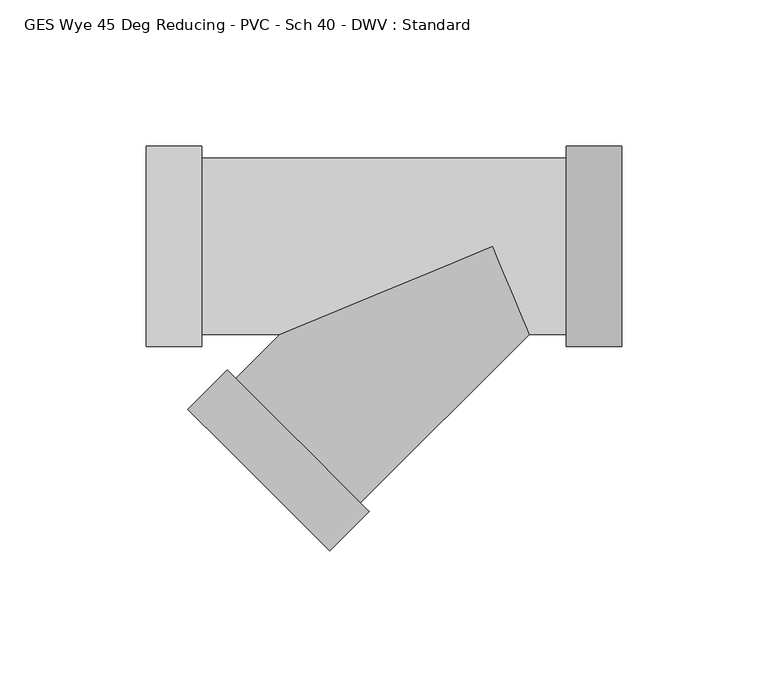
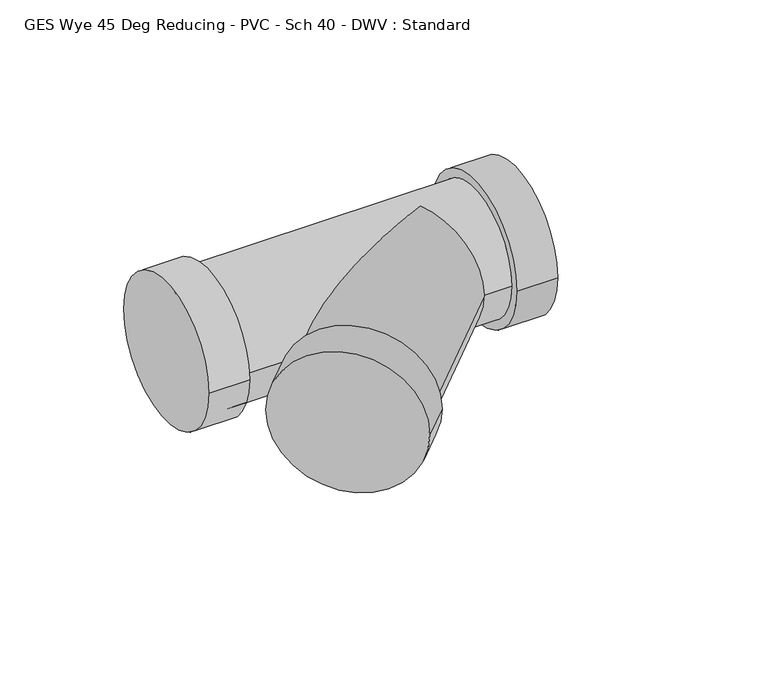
"""IFC4 building model written with IfcOpenShell, lengths in millimetres: pipe fitting geometry, GES Wye 45 Deg Reducing - PVC - Sch 40 - DWV : Standard."""

from ifc_helpers import new_model, si_unit, frame, origin, place, context, project, spatial, circle_curve, ellipse_curve, source, transform, mapped, element, save
from ifc_brep_helpers import plane_surface, cylinder_surface, advanced_brep


def ges_wye_45_deg_reducing_pvc_sch_40_dwv_standard_7655e975(model_context):
    return source(origin(), model_context, "Body", "AdvancedBrep", [
        advanced_brep(
        [(-99.5759375, 34.3154, 0.0), (-99.5759375, -34.3154, 0.0), (-99.5759375, 30.1625, 0.0), (-99.5759375, -30.1625, 0.0), (-118.6259375, 34.3154, 0.0), (-118.6259375, -34.3154, 0.0), (25.1182188, -34.3154, 0.0), (25.1182188, 34.3154, 0.0), (25.1182188, -30.1625, 0.0), (25.1182188, 30.1625, 0.0), (44.1682188, -34.3154, 0.0), (44.1682188, 34.3154, 0.0), (12.4920891, -30.1625, 0.0), (0.0, 0.0, -30.1625), (-72.8282036, -30.1625, 0.0), (0.0, 0.0, 30.1625), (-87.9405223, -45.2720349, 0.0), (-45.2882351, -87.9321805, 0.0), (-90.8767955, -42.3352206, 0.0), (-42.3519618, -90.8689947, 0.0), (-104.3484204, -55.804364, 0.0), (-55.8235867, -104.338138, 0.0)],
        [
            (0, 1, circle_curve(frame((-99.5759375, 0.0, 0.0), z_axis=(1.0, 0.0, 0.0), x_axis=(0.0, -1.0, 0.0)), 34.3154)),
            (1, 0, circle_curve(frame((-99.5759375, 0.0, 0.0), z_axis=(1.0, 0.0, 0.0), x_axis=(0.0, -1.0, 0.0)), 34.3154)),
            (2, 3, circle_curve(frame((-99.5759375, 0.0, 0.0), z_axis=(-1.0, 0.0, 0.0), x_axis=(0.0, 0.0, -1.0)), 30.1625)),
            (3, 2, circle_curve(frame((-99.5759375, 0.0, 0.0), z_axis=(-1.0, 0.0, 0.0), x_axis=(0.0, 0.0, 1.0)), 30.1625)),
            (4, 5, circle_curve(frame((-118.6259375, 0.0, 0.0), z_axis=(-1.0, 0.0, 0.0), x_axis=(0.0, -1.0, 0.0)), 34.3154)),
            (5, 4, circle_curve(frame((-118.6259375, 0.0, 0.0), z_axis=(-1.0, 0.0, 0.0), x_axis=(0.0, -1.0, 0.0)), 34.3154)),
            (0, 4),
            (5, 1),
            (6, 7, circle_curve(frame((25.1182188, 0.0, 0.0), z_axis=(-1.0, 0.0, 0.0), x_axis=(0.0, 1.0, 0.0)), 34.3154)),
            (7, 6, circle_curve(frame((25.1182188, 0.0, 0.0), z_axis=(-1.0, 0.0, 0.0), x_axis=(0.0, 1.0, 0.0)), 34.3154)),
            (8, 9, circle_curve(frame((25.1182188, 0.0, 0.0), z_axis=(1.0, 0.0, 0.0), x_axis=(0.0, 0.0, -1.0)), 30.1625)),
            (9, 8, circle_curve(frame((25.1182188, 0.0, 0.0), z_axis=(1.0, 0.0, 0.0), x_axis=(0.0, 0.0, 1.0)), 30.1625)),
            (10, 11, circle_curve(frame((44.1682188, 0.0, 0.0), z_axis=(1.0, 0.0, 0.0), x_axis=(0.0, 1.0, 0.0)), 34.3154)),
            (11, 10, circle_curve(frame((44.1682188, 0.0, 0.0), z_axis=(1.0, 0.0, 0.0), x_axis=(0.0, 1.0, 0.0)), 34.3154)),
            (6, 10),
            (11, 7),
            (2, 9),
            (8, 12),
            (12, 13, ellipse_curve(frame((0.0, 0.0, 0.0), z_axis=(0.9238971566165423, 0.38264088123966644, 0.0), x_axis=(0.3826408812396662, -0.9238971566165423, 0.0)), 32.647032, 30.1625)),
            (13, 14, ellipse_curve(frame((0.0, 0.0, 0.0), z_axis=(-0.3826408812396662, 0.9238971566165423, 0.0), x_axis=(0.9238971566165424, 0.3826408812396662, 0.0)), 78.8271758, 30.1625)),
            (14, 3),
            (14, 15, ellipse_curve(frame((0.0, 0.0, 0.0), z_axis=(-0.3826408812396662, 0.9238971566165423, 0.0), x_axis=(0.9238971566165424, 0.3826408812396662, 0.0)), 78.8271758, 30.1625)),
            (15, 12, ellipse_curve(frame((0.0, 0.0, 0.0), z_axis=(0.9238971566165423, 0.38264088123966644, 0.0), x_axis=(0.3826408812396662, -0.9238971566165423, 0.0)), 32.647032, 30.1625)),
            (14, 16),
            (16, 17, circle_curve(frame((-66.6143787, -66.6021077, 0.0), z_axis=(0.7071719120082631, 0.7070416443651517, 0.0), x_axis=(0.7070416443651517, -0.7071719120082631, 0.0)), 30.1625)),
            (17, 12),
            (17, 16, circle_curve(frame((-66.6143787, -66.6021077, 0.0), z_axis=(0.7071719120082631, 0.7070416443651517, 0.0), x_axis=(0.7070416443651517, -0.7071719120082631, 0.0)), 30.1625)),
            (18, 19, circle_curve(frame((-66.6143787, -66.6021077, 0.0), z_axis=(0.7071719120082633, 0.7070416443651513, 0.0), x_axis=(0.7070416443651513, -0.7071719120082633, 0.0)), 34.3154)),
            (19, 18, circle_curve(frame((-66.6143787, -66.6021077, 0.0), z_axis=(0.7071719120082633, 0.7070416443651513, 0.0), x_axis=(0.7070416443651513, -0.7071719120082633, 0.0)), 34.3154)),
            (20, 21, circle_curve(frame((-80.0860036, -80.071251, 0.0), z_axis=(-0.7071719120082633, -0.7070416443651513, 0.0), x_axis=(0.7070416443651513, -0.7071719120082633, 0.0)), 34.3154)),
            (21, 20, circle_curve(frame((-80.0860036, -80.071251, 0.0), z_axis=(-0.7071719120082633, -0.7070416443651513, 0.0), x_axis=(0.7070416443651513, -0.7071719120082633, 0.0)), 34.3154)),
            (18, 20),
            (21, 19),
        ],
        [
            plane_surface(frame((-99.5759375, 0.0, 0.0), z_axis=(1.0, 0.0, 0.0), x_axis=(0.0, 0.0, 1.0))),
            plane_surface(frame((-118.6259375, 0.0, 0.0), z_axis=(-1.0, 0.0, 0.0), x_axis=(0.0, 0.0, 1.0))),
            cylinder_surface(frame((-99.5759375, 0.0, 0.0), z_axis=(1.0, 0.0, 0.0), x_axis=(0.0, -1.0, 0.0)), 34.3154),
            plane_surface(frame((25.1182188, 0.0, 0.0), z_axis=(-1.0, 0.0, 0.0), x_axis=(0.0, 0.0, 1.0))),
            plane_surface(frame((44.1682188, 0.0, 0.0), z_axis=(1.0, 0.0, 0.0), x_axis=(0.0, 0.0, 1.0))),
            cylinder_surface(frame((25.1182188, 0.0, 0.0), z_axis=(-1.0, 0.0, 0.0), x_axis=(0.0, 1.0, 0.0)), 34.3154),
            cylinder_surface(frame((-99.5759375, 0.0, 0.0), z_axis=(1.0, 0.0, 0.0), x_axis=(0.0, 0.0, -1.0)), 30.1625),
            cylinder_surface(frame((-99.5759375, 0.0, 0.0), z_axis=(1.0, 0.0, 0.0), x_axis=(0.0, 0.0, 1.0)), 30.1625),
            cylinder_surface(frame((0.0, 0.0, 0.0), z_axis=(0.7071719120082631, 0.7070416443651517, 0.0), x_axis=(0.7070416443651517, -0.7071719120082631, 0.0)), 30.1625),
            plane_surface(frame((-66.6143787, -66.6021077, 0.0), z_axis=(0.7071719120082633, 0.7070416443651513, 0.0), x_axis=(0.0, 0.0, 1.0))),
            plane_surface(frame((-80.0860036, -80.071251, 0.0), z_axis=(-0.7071719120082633, -0.7070416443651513, 0.0), x_axis=(0.0, 0.0, 1.0))),
            cylinder_surface(frame((-66.6143787, -66.6021077, 0.0), z_axis=(0.7071719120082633, 0.7070416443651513, 0.0), x_axis=(0.7070416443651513, -0.7071719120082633, 0.0)), 34.3154),
        ],
        [
            (0, [[1, 2], [3, 4]]),
            (1, [[5, 6]]),
            (2, [[-1, 7, -6, 8]]),
            (2, [[-2, -8, -5, -7]]),
            (3, [[9, 10], [11, 12]]),
            (4, [[13, 14]]),
            (5, [[-9, 15, -14, 16]]),
            (5, [[-10, -16, -13, -15]]),
            (6, [[17, -11, 18, 19, 20, 21, -3]]),
            (7, [[-17, -4, -21, 22, 23, -18, -12]]),
            (8, [[24, 25, 26, -23, -22]]),
            (8, [[-24, -20, -19, -26, 27]]),
            (9, [[28, 29], [-25, -27]]),
            (10, [[30, 31]]),
            (11, [[-28, 32, -31, 33]]),
            (11, [[-29, -33, -30, -32]]),
        ],
    ),
    ])


if __name__ == "__main__":
    model = new_model("IFC4")
    model_context = context("Model", 3, world=origin())
    ifc_project = project(units=[si_unit("LENGTHUNIT", "METRE", prefix="MILLI")], contexts=[model_context])
    site = spatial("IfcSite", under=ifc_project)
    building = spatial("IfcBuilding", under=site)
    placement = place(None, origin())
    ges_wye_45_deg_reducing_pvc_sch_40_dwv_standard_shape = ges_wye_45_deg_reducing_pvc_sch_40_dwv_standard_7655e975(model_context)
    element("IfcPipeFitting", 1, ObjectType="GES Wye 45 Deg Reducing - PVC - Sch 40 - DWV : Standard", at=placement, inside=building, context=model_context, shape_type="MappedRepresentation", body=[
        mapped(ges_wye_45_deg_reducing_pvc_sch_40_dwv_standard_shape, transform((0.0, 0.0, 0.0), x_axis=(1.0, 0.0, 0.0), y_axis=(0.0, 1.0, 0.0), z_axis=(0.0, 0.0, 1.0))),
    ])
    save(model, "model.ifc")
